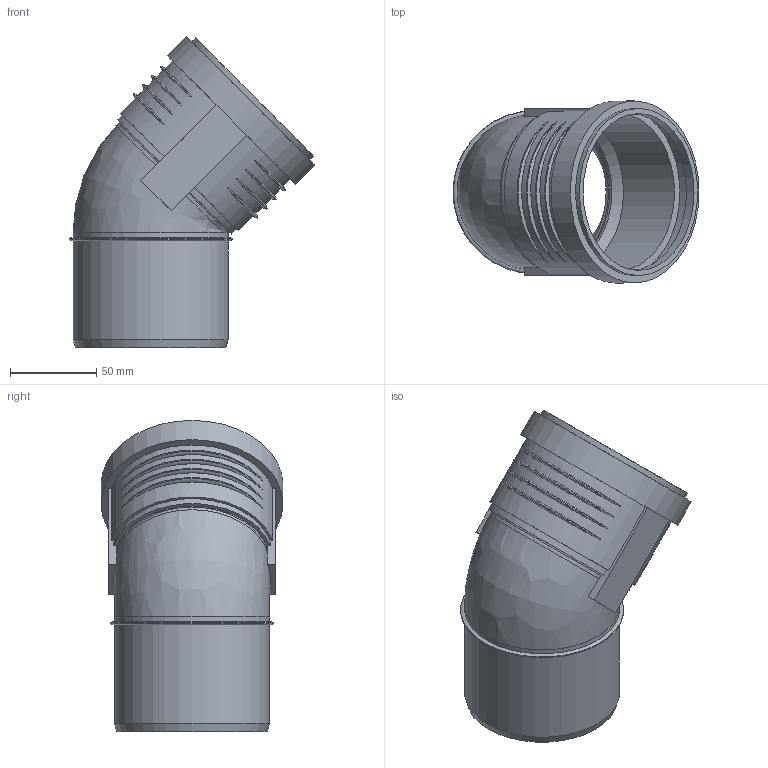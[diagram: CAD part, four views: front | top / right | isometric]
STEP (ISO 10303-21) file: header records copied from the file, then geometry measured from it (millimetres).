
FILE_DESCRIPTION(/* description */ (''),/* implementation_level */ '2;1');
FILE_NAME(/* name */ 'Z:\Geberit\Export\NewStep\390422.stp',/* time_stamp */ '2014-04-02T08:12:42+02:00',/* author */ ('ML'),/* organization */ (''),/* preprocessor_version */ 'ST-DEVELOPER v15.2',/* originating_system */ 'Autodesk Inventor 2014',/* authorisation */ '');
FILE_SCHEMA (('AUTOMOTIVE_DESIGN { 1 0 10303 214 3 1 1 }'));
Length unit declared in the file: millimetre
Products named in the file (3): 861313; 861403; 390422
Bounding box: 143 x 105.8 x 180.87 mm (x, y, z)
Volume: 166763.8 mm3; surface area: 112200.7 mm2
Topology: 2 solids, 2 shells, 68 faces, 162 edges, 109 vertices
Faces by surface type: torus 28, plane 19, cylinder 18, cone 2, bspline 1
Full cylindrical faces by diameter (mm): 84 x2, 84.2 x1, 90.2 x4, 91.2 x2, 97.2 x1, 99.8 x1, 105.8 x1
Entity records: 2726 total; most frequent: CARTESIAN_POINT 1150, DIRECTION 290, ORIENTED_EDGE 278, EDGE_CURVE 139, AXIS2_PLACEMENT_3D 127, VERTEX_POINT 106, EDGE_LOOP 103, STYLED_ITEM 70
